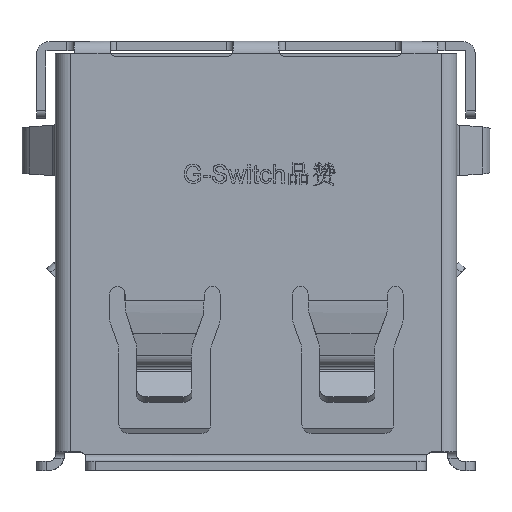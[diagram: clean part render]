
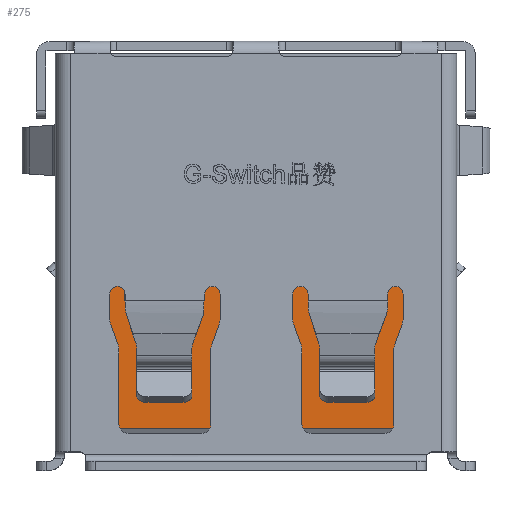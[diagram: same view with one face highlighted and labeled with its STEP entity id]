
A CAD part, top view. The second image highlights one B-rep face of the part: STEP entity #275.
In plain terms, the highlighted planar face has unit normal (0, 0, 1).
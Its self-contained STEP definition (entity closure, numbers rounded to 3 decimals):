
#270 = VERTEX_POINT ( 'NONE', #4504 ) ;
#275 = ADVANCED_FACE ( 'NONE', ( #17232 ), #33068, .T. ) ;
#545 = EDGE_LOOP ( 'NONE', ( #18995, #19365, #31901, #31642 ) ) ;
#1397 = VECTOR ( 'NONE', #28989, 1000. ) ;
#2268 = LINE ( 'NONE', #12625, #7683 ) ;
#2413 = CARTESIAN_POINT ( 'NONE',  ( 13.21, 1.366, -1.66 ) ) ;
#3748 = EDGE_CURVE ( 'NONE', #270, #28062, #13722, .T. ) ;
#4336 = DIRECTION ( 'NONE',  ( 0., 0., 1. ) ) ;
#4504 = CARTESIAN_POINT ( 'NONE',  ( 3.39, 8.88, -1.66 ) ) ;
#4933 = EDGE_CURVE ( 'NONE', #13355, #12259, #9457, .T. ) ;
#5856 = LINE ( 'NONE', #8572, #1397 ) ;
#7683 = VECTOR ( 'NONE', #13475, 1000. ) ;
#8572 = CARTESIAN_POINT ( 'NONE',  ( 13.21, 1.366, -1.66 ) ) ;
#8636 = DIRECTION ( 'NONE',  ( 1., 0., 0. ) ) ;
#9457 = LINE ( 'NONE', #9626, #11277 ) ;
#9626 = CARTESIAN_POINT ( 'NONE',  ( 13.21, 1.366, -1.66 ) ) ;
#9758 = CARTESIAN_POINT ( 'NONE',  ( 8.3, 5.123, -1.66 ) ) ;
#9876 = CARTESIAN_POINT ( 'NONE',  ( 3.39, 1.366, -1.66 ) ) ;
#11157 = EDGE_CURVE ( 'NONE', #12259, #270, #2268, .T. ) ;
#11277 = VECTOR ( 'NONE', #12179, 1000. ) ;
#12116 = VECTOR ( 'NONE', #8636, 1000. ) ;
#12179 = DIRECTION ( 'NONE',  ( -1., 0., 0. ) ) ;
#12259 = VERTEX_POINT ( 'NONE', #9876 ) ;
#12625 = CARTESIAN_POINT ( 'NONE',  ( 3.39, 1.366, -1.66 ) ) ;
#13355 = VERTEX_POINT ( 'NONE', #2413 ) ;
#13475 = DIRECTION ( 'NONE',  ( 0., 1., 0. ) ) ;
#13722 = LINE ( 'NONE', #24100, #12116 ) ;
#17232 = FACE_OUTER_BOUND ( 'NONE', #545, .T. ) ;
#18995 = ORIENTED_EDGE ( 'NONE', *, *, #4933, .F. ) ;
#19365 = ORIENTED_EDGE ( 'NONE', *, *, #31066, .T. ) ;
#24100 = CARTESIAN_POINT ( 'NONE',  ( 3.39, 8.88, -1.66 ) ) ;
#24987 = CARTESIAN_POINT ( 'NONE',  ( 13.21, 8.88, -1.66 ) ) ;
#25059 = DIRECTION ( 'NONE',  ( 1., 0., 0. ) ) ;
#28062 = VERTEX_POINT ( 'NONE', #24987 ) ;
#28989 = DIRECTION ( 'NONE',  ( 0., 1., 0. ) ) ;
#31066 = EDGE_CURVE ( 'NONE', #13355, #28062, #5856, .T. ) ;
#31642 = ORIENTED_EDGE ( 'NONE', *, *, #11157, .F. ) ;
#31901 = ORIENTED_EDGE ( 'NONE', *, *, #3748, .F. ) ;
#33068 = PLANE ( 'NONE',  #33330 ) ;
#33330 = AXIS2_PLACEMENT_3D ( 'NONE', #9758, #4336, #25059 ) ;
